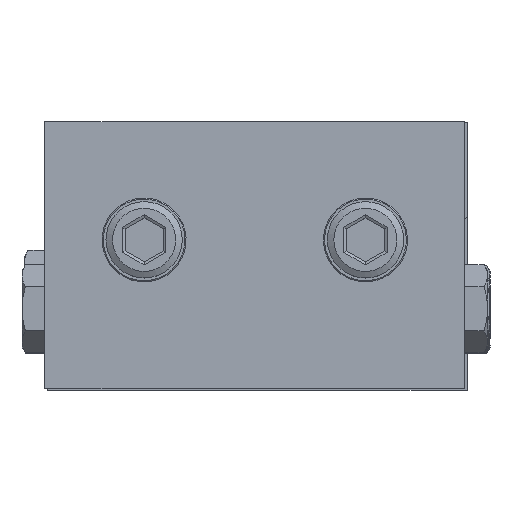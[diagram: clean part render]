
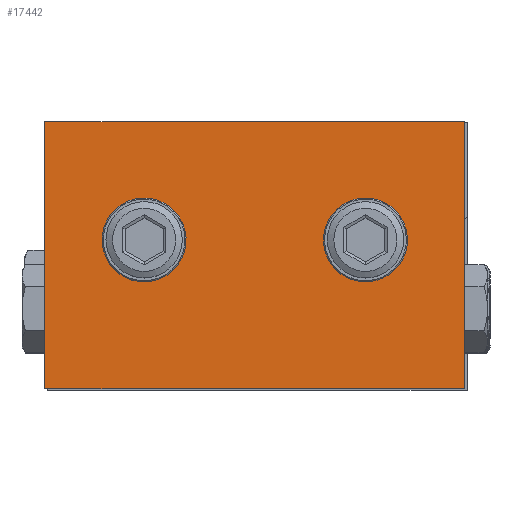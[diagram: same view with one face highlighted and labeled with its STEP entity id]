
A CAD part, top view. The second image highlights one B-rep face of the part: STEP entity #17442.
In plain terms, the highlighted planar face has unit normal (0, 0, 1) as drawn and (0, 0, -1) by its records, which use the part's own axes.
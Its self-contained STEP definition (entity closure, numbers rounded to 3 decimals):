
#111 = EDGE_LOOP ( 'NONE', ( #23496 ) ) ;
#648 = CARTESIAN_POINT ( 'NONE',  ( -11.4, -15.5, -4.85 ) ) ;
#776 = DIRECTION ( 'NONE',  ( 0., 1., 0. ) ) ;
#2149 = EDGE_CURVE ( 'NONE', #21429, #21429, #28576, .T. ) ;
#2608 = VECTOR ( 'NONE', #14728, 1000. ) ;
#2870 = LINE ( 'NONE', #17002, #10231 ) ;
#3570 = AXIS2_PLACEMENT_3D ( 'NONE', #6105, #25170, #19634 ) ;
#3795 = DIRECTION ( 'NONE',  ( 1., 0., 0. ) ) ;
#4369 = PLANE ( 'NONE',  #3570 ) ;
#4741 = DIRECTION ( 'NONE',  ( -1., 0., 0. ) ) ;
#5941 = VERTEX_POINT ( 'NONE', #13485 ) ;
#6105 = CARTESIAN_POINT ( 'NONE',  ( 0., 0., -4.85 ) ) ;
#6728 = CARTESIAN_POINT ( 'NONE',  ( 27.5, -35., -4.85 ) ) ;
#7756 = VERTEX_POINT ( 'NONE', #20925 ) ;
#8521 = EDGE_CURVE ( 'NONE', #17031, #17031, #27714, .T. ) ;
#8727 = VERTEX_POINT ( 'NONE', #12112 ) ;
#8973 = DIRECTION ( 'NONE',  ( 1., 0., 0. ) ) ;
#9572 = EDGE_CURVE ( 'NONE', #8727, #5941, #25396, .T. ) ;
#9704 = CARTESIAN_POINT ( 'NONE',  ( -27.5, 0., -4.85 ) ) ;
#10040 = ORIENTED_EDGE ( 'NONE', *, *, #9572, .F. ) ;
#10231 = VECTOR ( 'NONE', #776, 1000. ) ;
#11435 = CARTESIAN_POINT ( 'NONE',  ( 0., 0., -4.85 ) ) ;
#11641 = ORIENTED_EDGE ( 'NONE', *, *, #21442, .F. ) ;
#12112 = CARTESIAN_POINT ( 'NONE',  ( 27.5, 0., -4.85 ) ) ;
#13485 = CARTESIAN_POINT ( 'NONE',  ( -27.5, 0., -4.85 ) ) ;
#14728 = DIRECTION ( 'NONE',  ( 0., -1., 0. ) ) ;
#14882 = LINE ( 'NONE', #9704, #2608 ) ;
#15209 = ORIENTED_EDGE ( 'NONE', *, *, #8521, .F. ) ;
#16528 = EDGE_LOOP ( 'NONE', ( #11641, #10040, #21738, #20552 ) ) ;
#17002 = CARTESIAN_POINT ( 'NONE',  ( 27.5, 0., -4.85 ) ) ;
#17031 = VERTEX_POINT ( 'NONE', #19768 ) ;
#17442 = ADVANCED_FACE ( 'NONE', ( #24177, #29180, #20091 ), #4369, .F. ) ;
#17644 = DIRECTION ( 'NONE',  ( 0., 0., -1. ) ) ;
#17672 = VECTOR ( 'NONE', #3795, 1000. ) ;
#18680 = EDGE_CURVE ( 'NONE', #7756, #19830, #26722, .T. ) ;
#19634 = DIRECTION ( 'NONE',  ( 1., 0., 0. ) ) ;
#19768 = CARTESIAN_POINT ( 'NONE',  ( 11.4, -15.5, -4.85 ) ) ;
#19830 = VERTEX_POINT ( 'NONE', #6728 ) ;
#19951 = VECTOR ( 'NONE', #4741, 1000. ) ;
#20091 = FACE_BOUND ( 'NONE', #111, .T. ) ;
#20552 = ORIENTED_EDGE ( 'NONE', *, *, #18680, .F. ) ;
#20925 = CARTESIAN_POINT ( 'NONE',  ( -27.5, -35., -4.85 ) ) ;
#21429 = VERTEX_POINT ( 'NONE', #648 ) ;
#21442 = EDGE_CURVE ( 'NONE', #5941, #7756, #14882, .T. ) ;
#21738 = ORIENTED_EDGE ( 'NONE', *, *, #25430, .F. ) ;
#22645 = CARTESIAN_POINT ( 'NONE',  ( 14.5, -15.5, -4.85 ) ) ;
#22805 = EDGE_LOOP ( 'NONE', ( #15209 ) ) ;
#22932 = DIRECTION ( 'NONE',  ( -1., 0., 0. ) ) ;
#23496 = ORIENTED_EDGE ( 'NONE', *, *, #2149, .F. ) ;
#23866 = AXIS2_PLACEMENT_3D ( 'NONE', #22645, #17644, #22932 ) ;
#24177 = FACE_OUTER_BOUND ( 'NONE', #16528, .T. ) ;
#24651 = CARTESIAN_POINT ( 'NONE',  ( -14.5, -15.5, -4.85 ) ) ;
#25170 = DIRECTION ( 'NONE',  ( 0., 0., 1. ) ) ;
#25396 = LINE ( 'NONE', #11435, #19951 ) ;
#25430 = EDGE_CURVE ( 'NONE', #19830, #8727, #2870, .T. ) ;
#26722 = LINE ( 'NONE', #26876, #17672 ) ;
#26876 = CARTESIAN_POINT ( 'NONE',  ( 0., -35., -4.85 ) ) ;
#27714 = CIRCLE ( 'NONE', #23866, 3.1 ) ;
#28576 = CIRCLE ( 'NONE', #29556, 3.1 ) ;
#29180 = FACE_BOUND ( 'NONE', #22805, .T. ) ;
#29556 = AXIS2_PLACEMENT_3D ( 'NONE', #24651, #29637, #8973 ) ;
#29637 = DIRECTION ( 'NONE',  ( 0., 0., -1. ) ) ;
